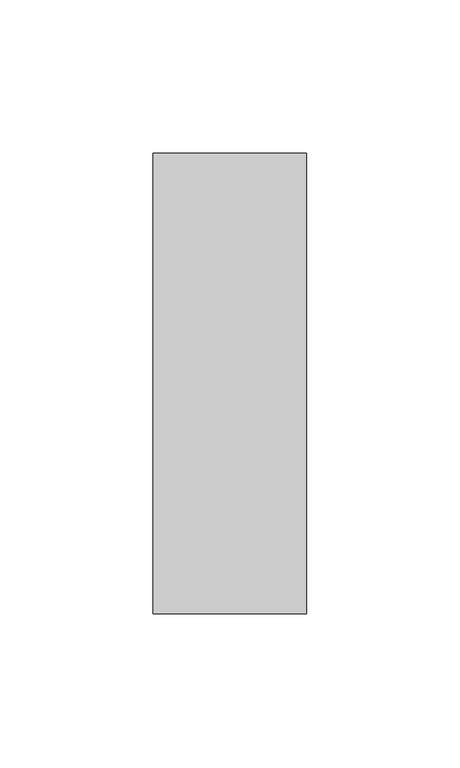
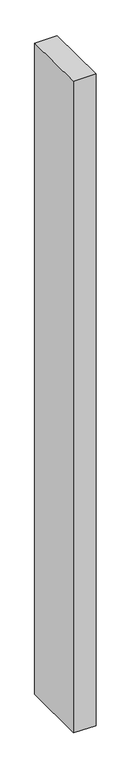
"""IFC4 building model written with IfcOpenShell, lengths in millimetres: member geometry, Прямоугольный импост : 50 x 150 мм."""

from ifc_helpers import new_model, si_unit, origin, place, context, project, spatial, faceted_brep, source, transform, mapped, element, save


def member_ac662c4f(model_context):
    return source(origin(), model_context, "Body", "Brep", [
        faceted_brep([(-25.0, 75.0, -1.147625), (25.0, 75.0, -0.8882767), (25.0, 75.0, -1535.8886384), (-25.0, 75.0, -1535.6460607), (-25.0, -75.0, 0.8882767), (-25.0, -75.0, -1535.4305149), (25.0, -75.0, 1.147625), (25.0, -75.0, -1535.6730927)], [[[0, 1, 2, 3]], [[4, 0, 3, 5]], [[6, 4, 5, 7]], [[1, 6, 7, 2]], [[1, 0, 4, 6]], [[2, 7, 5, 3]]]),
    ])


if __name__ == "__main__":
    model = new_model("IFC4")
    model_context = context("Model", 3, world=origin())
    ifc_project = project(units=[si_unit("LENGTHUNIT", "METRE", prefix="MILLI")], contexts=[model_context])
    site = spatial("IfcSite", under=ifc_project)
    building = spatial("IfcBuilding", under=site)
    placement = place(None, origin())
    member_shape = member_ac662c4f(model_context)
    element("IfcMember", 1, ObjectType="Прямоугольный импост : 50 x 150 мм", at=placement, inside=building, context=model_context, shape_type="MappedRepresentation", body=[
        mapped(member_shape, transform((0.0, 0.0, 0.0), x_axis=(1.0, 0.0, 0.0), y_axis=(0.0, 1.0, 0.0), z_axis=(0.0, 0.0, 1.0))),
    ])
    save(model, "model.ifc")
